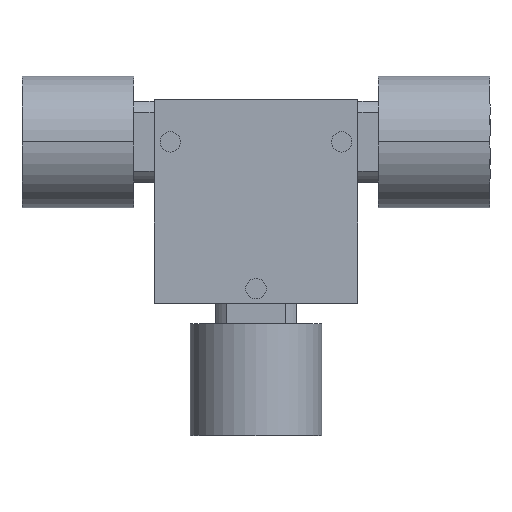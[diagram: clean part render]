
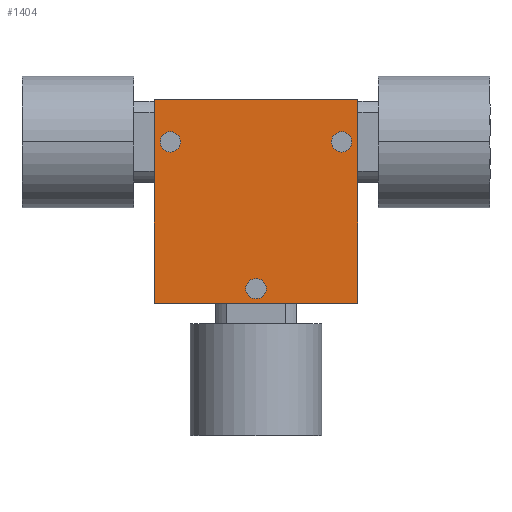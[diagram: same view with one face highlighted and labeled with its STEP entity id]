
A CAD part, top view. The second image highlights one B-rep face of the part: STEP entity #1404.
In plain terms, the highlighted planar face has unit normal (0, 0, 1) as drawn and (0, 0, -1) by its records, which use the part's own axes.
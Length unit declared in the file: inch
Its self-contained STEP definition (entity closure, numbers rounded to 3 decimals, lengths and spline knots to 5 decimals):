
#72 = AXIS2_PLACEMENT_3D ( 'NONE', #362, #1139, #1294 ) ;
#113 = DIRECTION ( 'NONE',  ( 0., 1., 0. ) ) ;
#120 = CARTESIAN_POINT ( 'NONE',  ( -0.625, -0.625, -0.365 ) ) ;
#121 = CARTESIAN_POINT ( 'NONE',  ( -0.525, 0.365, -0.365 ) ) ;
#179 = EDGE_CURVE ( 'NONE', #359, #1181, #1150, .T. ) ;
#205 = VECTOR ( 'NONE', #1547, 39.37008 ) ;
#243 = AXIS2_PLACEMENT_3D ( 'NONE', #575, #1369, #2028 ) ;
#265 = CARTESIAN_POINT ( 'NONE',  ( -0.4625, 0.365, -0.365 ) ) ;
#279 = VECTOR ( 'NONE', #1691, 39.37008 ) ;
#293 = EDGE_LOOP ( 'NONE', ( #1690, #1307 ) ) ;
#311 = ORIENTED_EDGE ( 'NONE', *, *, #1400, .F. ) ;
#331 = LINE ( 'NONE', #1596, #205 ) ;
#356 = DIRECTION ( 'NONE',  ( 1., 0., 0. ) ) ;
#359 = VERTEX_POINT ( 'NONE', #265 ) ;
#361 = DIRECTION ( 'NONE',  ( 0., 0., 1. ) ) ;
#362 = CARTESIAN_POINT ( 'NONE',  ( 0.525, 0.365, -0.365 ) ) ;
#377 = FACE_BOUND ( 'NONE', #293, .T. ) ;
#385 = ORIENTED_EDGE ( 'NONE', *, *, #503, .T. ) ;
#401 = CARTESIAN_POINT ( 'NONE',  ( -0.0625, -0.535, -0.365 ) ) ;
#402 = CIRCLE ( 'NONE', #1653, 0.0625 ) ;
#424 = ORIENTED_EDGE ( 'NONE', *, *, #1130, .F. ) ;
#428 = VERTEX_POINT ( 'NONE', #558 ) ;
#451 = VERTEX_POINT ( 'NONE', #2032 ) ;
#462 = CIRCLE ( 'NONE', #1290, 0.0625 ) ;
#503 = EDGE_CURVE ( 'NONE', #1181, #359, #462, .T. ) ;
#536 = DIRECTION ( 'NONE',  ( 0., -1., 0. ) ) ;
#545 = EDGE_LOOP ( 'NONE', ( #862, #311, #424, #2044 ) ) ;
#558 = CARTESIAN_POINT ( 'NONE',  ( 0.5875, 0.365, -0.365 ) ) ;
#575 = CARTESIAN_POINT ( 'NONE',  ( 0., 0., -0.365 ) ) ;
#591 = DIRECTION ( 'NONE',  ( 0., 0., 1. ) ) ;
#616 = LINE ( 'NONE', #1671, #1500 ) ;
#677 = EDGE_LOOP ( 'NONE', ( #1903, #385 ) ) ;
#726 = CARTESIAN_POINT ( 'NONE',  ( 0.525, 0.365, -0.365 ) ) ;
#763 = VERTEX_POINT ( 'NONE', #922 ) ;
#862 = ORIENTED_EDGE ( 'NONE', *, *, #1174, .F. ) ;
#883 = DIRECTION ( 'NONE',  ( 1., 0., 0. ) ) ;
#884 = EDGE_CURVE ( 'NONE', #428, #1006, #1647, .T. ) ;
#887 = EDGE_LOOP ( 'NONE', ( #1430, #1740 ) ) ;
#919 = DIRECTION ( 'NONE',  ( 0., 0., 1. ) ) ;
#922 = CARTESIAN_POINT ( 'NONE',  ( -0.625, 0.625, -0.365 ) ) ;
#980 = CARTESIAN_POINT ( 'NONE',  ( -0.5875, 0.365, -0.365 ) ) ;
#1006 = VERTEX_POINT ( 'NONE', #1311 ) ;
#1045 = VERTEX_POINT ( 'NONE', #1623 ) ;
#1054 = FACE_BOUND ( 'NONE', #887, .T. ) ;
#1074 = LINE ( 'NONE', #1305, #1295 ) ;
#1093 = AXIS2_PLACEMENT_3D ( 'NONE', #1279, #361, #356 ) ;
#1103 = FACE_BOUND ( 'NONE', #677, .T. ) ;
#1116 = VERTEX_POINT ( 'NONE', #401 ) ;
#1130 = EDGE_CURVE ( 'NONE', #763, #1045, #1074, .T. ) ;
#1139 = DIRECTION ( 'NONE',  ( 0., 0., 1. ) ) ;
#1150 = CIRCLE ( 'NONE', #1093, 0.0625 ) ;
#1174 = EDGE_CURVE ( 'NONE', #451, #2039, #616, .T. ) ;
#1181 = VERTEX_POINT ( 'NONE', #980 ) ;
#1279 = CARTESIAN_POINT ( 'NONE',  ( -0.525, 0.365, -0.365 ) ) ;
#1290 = AXIS2_PLACEMENT_3D ( 'NONE', #121, #591, #2047 ) ;
#1294 = DIRECTION ( 'NONE',  ( 1., 0., 0. ) ) ;
#1295 = VECTOR ( 'NONE', #536, 39.37008 ) ;
#1305 = CARTESIAN_POINT ( 'NONE',  ( -0.625, 0.625, -0.365 ) ) ;
#1307 = ORIENTED_EDGE ( 'NONE', *, *, #1948, .T. ) ;
#1311 = CARTESIAN_POINT ( 'NONE',  ( 0.4625, 0.365, -0.365 ) ) ;
#1324 = CIRCLE ( 'NONE', #1354, 0.0625 ) ;
#1354 = AXIS2_PLACEMENT_3D ( 'NONE', #1399, #919, #1408 ) ;
#1369 = DIRECTION ( 'NONE',  ( 0., 0., 1. ) ) ;
#1399 = CARTESIAN_POINT ( 'NONE',  ( 0., -0.535, -0.365 ) ) ;
#1400 = EDGE_CURVE ( 'NONE', #1045, #451, #1504, .T. ) ;
#1404 = ADVANCED_FACE ( 'NONE', ( #1054, #377, #1103, #1703 ), #1678, .F. ) ;
#1408 = DIRECTION ( 'NONE',  ( 1., 0., 0. ) ) ;
#1421 = AXIS2_PLACEMENT_3D ( 'NONE', #1462, #1453, #1617 ) ;
#1430 = ORIENTED_EDGE ( 'NONE', *, *, #884, .T. ) ;
#1453 = DIRECTION ( 'NONE',  ( 0., 0., 1. ) ) ;
#1462 = CARTESIAN_POINT ( 'NONE',  ( 0., -0.535, -0.365 ) ) ;
#1500 = VECTOR ( 'NONE', #113, 39.37008 ) ;
#1504 = LINE ( 'NONE', #120, #279 ) ;
#1530 = DIRECTION ( 'NONE',  ( 0., 0., 1. ) ) ;
#1542 = CARTESIAN_POINT ( 'NONE',  ( 0.0625, -0.535, -0.365 ) ) ;
#1547 = DIRECTION ( 'NONE',  ( -1., 0., 0. ) ) ;
#1596 = CARTESIAN_POINT ( 'NONE',  ( -0.625, 0.625, -0.365 ) ) ;
#1617 = DIRECTION ( 'NONE',  ( 1., 0., 0. ) ) ;
#1623 = CARTESIAN_POINT ( 'NONE',  ( -0.625, -0.625, -0.365 ) ) ;
#1647 = CIRCLE ( 'NONE', #72, 0.0625 ) ;
#1653 = AXIS2_PLACEMENT_3D ( 'NONE', #726, #1530, #883 ) ;
#1670 = CARTESIAN_POINT ( 'NONE',  ( 0.625, 0.625, -0.365 ) ) ;
#1671 = CARTESIAN_POINT ( 'NONE',  ( 0.625, 0.625, -0.365 ) ) ;
#1678 = PLANE ( 'NONE',  #243 ) ;
#1690 = ORIENTED_EDGE ( 'NONE', *, *, #2050, .T. ) ;
#1691 = DIRECTION ( 'NONE',  ( 1., 0., 0. ) ) ;
#1703 = FACE_OUTER_BOUND ( 'NONE', #545, .T. ) ;
#1714 = VERTEX_POINT ( 'NONE', #1542 ) ;
#1740 = ORIENTED_EDGE ( 'NONE', *, *, #1762, .T. ) ;
#1762 = EDGE_CURVE ( 'NONE', #1006, #428, #402, .T. ) ;
#1867 = CIRCLE ( 'NONE', #1421, 0.0625 ) ;
#1882 = EDGE_CURVE ( 'NONE', #2039, #763, #331, .T. ) ;
#1903 = ORIENTED_EDGE ( 'NONE', *, *, #179, .T. ) ;
#1948 = EDGE_CURVE ( 'NONE', #1116, #1714, #1867, .T. ) ;
#2028 = DIRECTION ( 'NONE',  ( 1., 0., 0. ) ) ;
#2032 = CARTESIAN_POINT ( 'NONE',  ( 0.625, -0.625, -0.365 ) ) ;
#2039 = VERTEX_POINT ( 'NONE', #1670 ) ;
#2044 = ORIENTED_EDGE ( 'NONE', *, *, #1882, .F. ) ;
#2047 = DIRECTION ( 'NONE',  ( 1., 0., 0. ) ) ;
#2050 = EDGE_CURVE ( 'NONE', #1714, #1116, #1324, .T. ) ;
